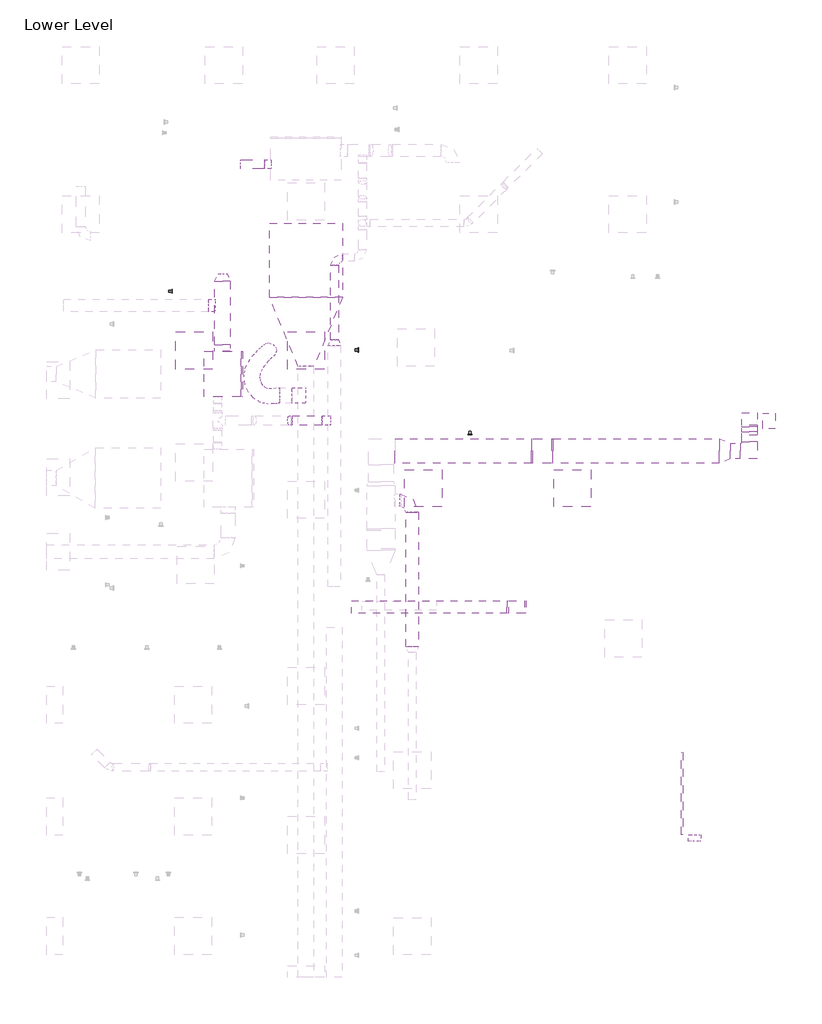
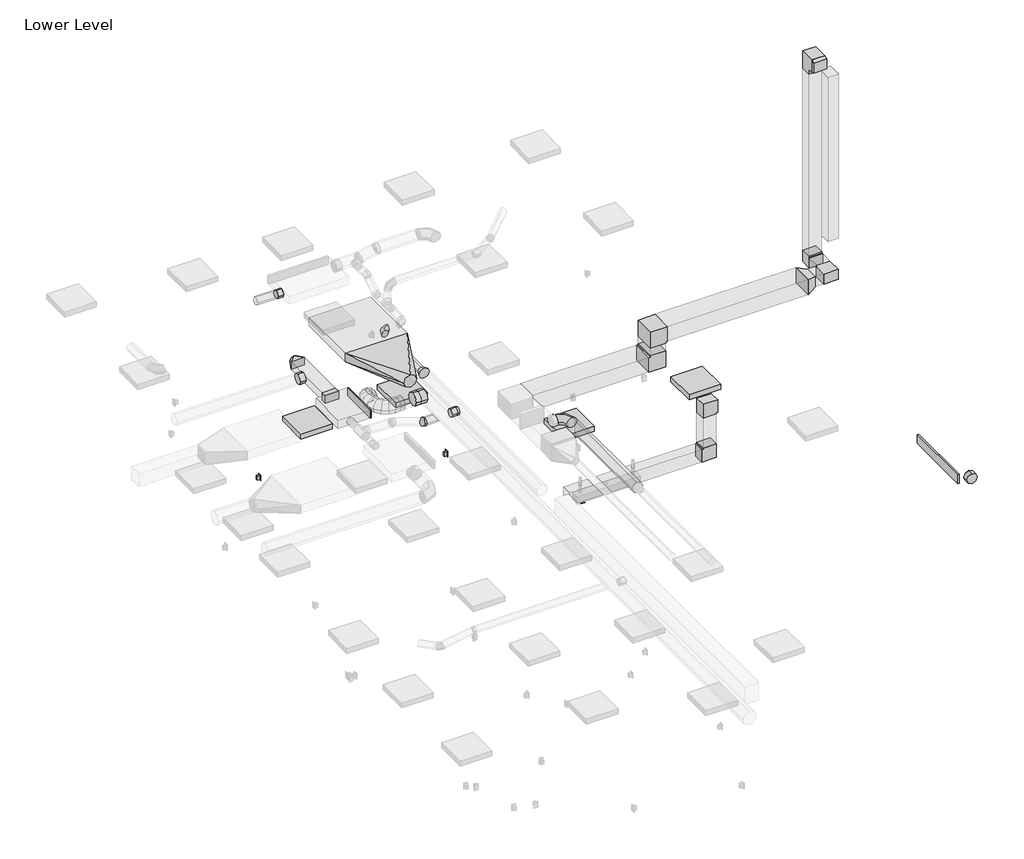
# One storey, part 3 of 4: 23 duct fittings, 17 duct segments, 4 light fixtures, 2 switching devices, 1 proxy.
"""IFC4 building model written with IfcOpenShell, lengths in millimetres."""

from ifc_helpers import new_model, si_unit, point, frame, frame_2d, origin, place, context, project, spatial, polyline, circle_curve, ellipse_curve, trimmed, segment, composite_curve, outline, extrude, transform, mapped, element, save
from ifc_brep_helpers import plane_surface, cylinder_surface, advanced_brep
from components import duplex_receptacle_countertop_10251bba, rectangular_elbow_mitered_transition_standard_34e7224c, rectangular_elbow_mitered_standard_f09b78ec, rectangular_elbow_mitered_standard_c070aa60, rectangular_elbow_mitered_standard_d7b64f5d, rectangular_endcap_standard_43f25f61, rectangular_endcap_standard_3ad2bc23, rectangular_takeoff_standard_c6066038, rectangular_transition_angle_45_degree_591ca4bc, rectangular_transition_angle_45_degree_c4f24900, rectangular_to_round_transition_angle_45_degree_c21d7c10, rectangular_to_round_transition_angle_45_degree_677d3a23, round_elbow_1_d_a253342a, round_elbow_1_d_c80420c1, round_elbow_1_d_f0624a5f, round_takeoff_standard_db554fbb, round_takeoff_standard_d3b0d0f9, round_takeoff_standard_0a2b6d05, round_takeoff_standard_d952ff4d, round_transition_angle_45_degree_a4d0e481, troffer_corner_insert_2x2_3lamp_e67c7f8f

model = new_model("IFC4")

# Units and contexts
model_context = context("Model", 3, world=origin())
ifc_project = project(units=[si_unit("LENGTHUNIT", "METRE", prefix="MILLI")], contexts=[model_context])

# Site, building, storey
site = spatial("IfcSite", under=ifc_project)
building = spatial("IfcBuilding", under=site)
storey = spatial("IfcBuildingStorey", under=building, Name="Lower Level", Elevation=29972.0)

# Proxy
placement = place(None, origin())
duplex_receptacle_countertop_shape = duplex_receptacle_countertop_10251bba(model_context)
element("IfcBuildingElementProxy", 1, Name="Duplex Receptacle : GFCI", ObjectType="Duplex Receptacle : GFCI", at=placement, inside=storey, context=model_context, shape_type="MappedRepresentation", body=[
    mapped(duplex_receptacle_countertop_shape, transform((-10921.2162946, 7255.8695005, 30429.2), x_axis=(1.0, 0.0, 0.0), y_axis=(0.0, 0.0, 1.0), z_axis=(0.0, -1.0, 0.0))),
])

# Duct fittings
rectangular_elbow_mitered_transition_standard_shape = rectangular_elbow_mitered_transition_standard_34e7224c(model_context)
element("IfcDuctFitting", 2, ObjectType="Rectangular Elbow - Mitered - Transition : Standard", at=placement, inside=storey, context=model_context, shape_type="MappedRepresentation", body=[
    mapped(rectangular_elbow_mitered_transition_standard_shape, transform((-6347.3126806, 7505.3293332, 37693.6), x_axis=(0.0, 0.0, 1.0), y_axis=(0.0, -1.0, 0.0), z_axis=(1.0, 0.0, 0.0))),
])
rectangular_elbow_mitered_standard_shape = rectangular_elbow_mitered_standard_f09b78ec(model_context)
element("IfcDuctFitting", 3, ObjectType="Rectangular Elbow - Mitered : Standard", at=placement, inside=storey, context=model_context, shape_type="MappedRepresentation", body=[
    mapped(rectangular_elbow_mitered_standard_shape, transform((-10160.5055151, 4430.1195005, 33807.4), x_axis=(0.0, 0.0, 1.0), y_axis=(1.0, 0.0, 0.0), z_axis=(0.0, 1.0, 0.0))),
])
element("IfcDuctFitting", 4, ObjectType="Rectangular Elbow - Mitered : Standard", at=placement, inside=storey, context=model_context, shape_type="MappedRepresentation", body=[
    mapped(rectangular_elbow_mitered_standard_shape, transform((-6347.3126806, 6984.6293332, 33629.6), x_axis=(1.0, 0.0, 0.0), y_axis=(0.0, 1.0, 0.0), z_axis=(0.0, 0.0, 1.0))),
])
element("IfcDuctFitting", 5, ObjectType="Rectangular Elbow - Mitered : Standard", at=placement, inside=storey, context=model_context, shape_type="MappedRepresentation", body=[
    mapped(rectangular_elbow_mitered_standard_shape, transform((-10160.5055151, 4430.1195005, 32893.0), x_axis=(0.0, 0.0, -1.0), y_axis=(-1.0, 0.0, 0.0), z_axis=(0.0, 1.0, 0.0))),
])
rectangular_elbow_mitered_standard_2_shape = rectangular_elbow_mitered_standard_c070aa60(model_context)
element("IfcDuctFitting", 6, ObjectType="Rectangular Elbow - Mitered : Standard", at=placement, inside=storey, context=model_context, shape_type="MappedRepresentation", body=[
    mapped(rectangular_elbow_mitered_standard_2_shape, transform((-9738.2126806, 6984.6293332, 33121.6), x_axis=(1.0, 0.0, 0.0), y_axis=(0.0, 0.0, 1.0), z_axis=(0.0, -1.0, 0.0))),
])
element("IfcDuctFitting", 7, ObjectType="Rectangular Elbow - Mitered : Standard", at=placement, inside=storey, context=model_context, shape_type="MappedRepresentation", body=[
    mapped(rectangular_elbow_mitered_standard_2_shape, transform((-9738.2126806, 6984.6293332, 33629.6), x_axis=(0.0, 0.0, 1.0), y_axis=(1.0, 0.0, 0.0), z_axis=(0.0, 1.0, 0.0))),
])
rectangular_elbow_mitered_standard_3_shape = rectangular_elbow_mitered_standard_d7b64f5d(model_context)
element("IfcDuctFitting", 8, ObjectType="Rectangular Elbow - Mitered : Standard", at=placement, inside=storey, context=model_context, shape_type="MappedRepresentation", body=[
    mapped(rectangular_elbow_mitered_standard_3_shape, transform((-6347.3126806, 7505.3293332, 33629.6), x_axis=(0.0, 0.0, -1.0), y_axis=(0.0, -1.0, 0.0), z_axis=(-1.0, 0.0, 0.0))),
])
rectangular_endcap_standard_shape = rectangular_endcap_standard_43f25f61(model_context)
element("IfcDuctFitting", 9, ObjectType="Rectangular Endcap : Standard", at=placement, inside=storey, context=model_context, shape_type="MappedRepresentation", body=[
    mapped(rectangular_endcap_standard_shape, transform((-14665.2337034, 8243.4520797, 33121.6), x_axis=(1.0, 0.0, 0.0), y_axis=(0.0, 1.0, 0.0), z_axis=(0.0, 0.0, 1.0))),
])
rectangular_endcap_standard_2_shape = rectangular_endcap_standard_3ad2bc23(model_context)
element("IfcDuctFitting", 10, ObjectType="Rectangular Endcap : Standard", at=placement, inside=storey, context=model_context, shape_type="MappedRepresentation", body=[
    mapped(rectangular_endcap_standard_2_shape, transform((-7438.8450089, 1382.1195005, 33617.69375), x_axis=(-1.0, 0.0, 0.0), y_axis=(0.0, -1.0, 0.0), z_axis=(0.0, 0.0, 1.0))),
])
rectangular_takeoff_standard_shape = rectangular_takeoff_standard_c6066038(model_context)
element("IfcDuctFitting", 11, ObjectType="Rectangular Takeoff : Standard", at=placement, inside=storey, context=model_context, shape_type="MappedRepresentation", body=[
    mapped(rectangular_takeoff_standard_shape, transform((-14970.033703, 8618.7395797, 33121.6), x_axis=(0.0, 1.0, 0.0), y_axis=(1.0, 0.0, 0.0), z_axis=(0.0, 0.0, -1.0))),
])
rectangular_transition_angle_45_degree_shape = rectangular_transition_angle_45_degree_591ca4bc(model_context)
element("IfcDuctFitting", 12, ObjectType="Rectangular Transition - Angle : 45 Degree", at=placement, inside=storey, context=model_context, shape_type="MappedRepresentation", body=[
    mapped(rectangular_transition_angle_45_degree_shape, transform((-6842.6126806, 6984.6293332, 33629.6), x_axis=(1.0, 0.0, 0.0), y_axis=(0.0, 1.0, 0.0), z_axis=(0.0, 0.0, 1.0))),
])
rectangular_transition_angle_45_degree_2_shape = rectangular_transition_angle_45_degree_c4f24900(model_context)
element("IfcDuctFitting", 13, ObjectType="Rectangular Transition - Angle : 45 Degree", at=placement, inside=storey, context=model_context, shape_type="MappedRepresentation", body=[
    mapped(rectangular_transition_angle_45_degree_2_shape, transform((-6347.3126806, 7302.1293332, 37693.6), x_axis=(0.0, -1.0, 0.0), y_axis=(1.0, 0.0, 0.0), z_axis=(0.0, 0.0, 1.0))),
])
rectangular_to_round_transition_angle_45_degree_shape = rectangular_to_round_transition_angle_45_degree_c21d7c10(model_context)
element("IfcDuctFitting", 14, ObjectType="Rectangular to Round Transition - Angle : 45 Degree", at=placement, inside=storey, context=model_context, shape_type="MappedRepresentation", body=[
    mapped(rectangular_to_round_transition_angle_45_degree_shape, transform((-13605.5079607, 9497.2083308, 33125.965625), x_axis=(0.0, -1.0, 0.0), y_axis=(1.0, 0.0, 0.0), z_axis=(0.0, 0.0, 1.0))),
])
rectangular_to_round_transition_angle_45_degree_2_shape = rectangular_to_round_transition_angle_45_degree_677d3a23(model_context)
element("IfcDuctFitting", 15, ObjectType="Rectangular to Round Transition - Angle : 45 Degree", at=placement, inside=storey, context=model_context, shape_type="MappedRepresentation", body=[
    mapped(rectangular_to_round_transition_angle_45_degree_2_shape, transform((-14970.033703, 9761.7395797, 33121.6), x_axis=(0.0, 1.0, 0.0), y_axis=(-1.0, 0.0, 0.0), z_axis=(0.0, 0.0, 1.0))),
])
round_elbow_1_d_shape = round_elbow_1_d_a253342a(model_context)
element("IfcDuctFitting", 16, ObjectType="Round Elbow : 1 D", at=placement, inside=storey, context=model_context, shape_type="MappedRepresentation", body=[
    mapped(round_elbow_1_d_shape, transform((-11866.4513201, 6182.7195005, 33121.6), x_axis=(0.0, 1.0, 0.0), y_axis=(-1.0, 0.0, 0.0), z_axis=(0.0, 0.0, 1.0))),
])
round_elbow_1_d_2_shape = round_elbow_1_d_c80420c1(model_context)
element("IfcDuctFitting", 17, ObjectType="Round Elbow : 1 D", at=placement, inside=storey, context=model_context, shape_type="MappedRepresentation", body=[
    mapped(round_elbow_1_d_2_shape, transform((-13138.544811, 10147.8938374, 32918.4), x_axis=(-1.0, 0.0, 0.0), y_axis=(0.0, -1.0, 0.0), z_axis=(0.0, 0.0, 1.0))),
])
round_elbow_1_d_3_shape = round_elbow_1_d_f0624a5f(model_context)
element("IfcDuctFitting", 18, ObjectType="Round Elbow : 1 D", at=placement, inside=storey, context=model_context, shape_type="MappedRepresentation", body=[
    mapped(round_elbow_1_d_3_shape, transform((-13857.8903997, 7481.5106674, 32918.4), x_axis=(0.9490023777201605, 0.0, -0.31526891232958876), y_axis=(0.31526891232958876, 0.0, 0.9490023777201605), z_axis=(0.0, -1.0, 0.0))),
])
round_takeoff_standard_shape = round_takeoff_standard_db554fbb(model_context)
element("IfcDuctFitting", 19, ObjectType="Round Takeoff : Standard", at=placement, inside=storey, context=model_context, shape_type="MappedRepresentation", body=[
    mapped(round_takeoff_standard_shape, transform((-13240.144811, 7481.5106674, 32918.4), x_axis=(-1.0, 0.0, 0.0), y_axis=(0.0, 1.0, 0.0), z_axis=(0.0, 0.0, -1.0))),
])
round_takeoff_standard_2_shape = round_takeoff_standard_d3b0d0f9(model_context)
element("IfcDuctFitting", 20, ObjectType="Round Takeoff : Standard", at=placement, inside=storey, context=model_context, shape_type="MappedRepresentation", body=[
    mapped(round_takeoff_standard_2_shape, transform((-7247.6134283, 704.2570005, 33617.69375), x_axis=(0.0, -1.0, 0.0), y_axis=(-1.0, 0.0, 0.0), z_axis=(0.0, 0.0, -1.0))),
])
element("IfcDuctFitting", 21, ObjectType="Round Takeoff : Standard", at=placement, inside=storey, context=model_context, shape_type="MappedRepresentation", body=[
    mapped(round_takeoff_standard_2_shape, transform((-15097.033703, 9360.8945005, 33121.6), x_axis=(-1.0, 0.0, 0.0), y_axis=(0.0, 1.0, 0.0), z_axis=(0.0, 0.0, -1.0))),
])
round_takeoff_standard_3_shape = round_takeoff_standard_0a2b6d05(model_context)
element("IfcDuctFitting", 22, ObjectType="Round Takeoff : Standard", at=placement, inside=storey, context=model_context, shape_type="MappedRepresentation", body=[
    mapped(round_takeoff_standard_3_shape, transform((-14180.8079607, 11673.8820005, 33121.6), x_axis=(-1.0, 0.0, 0.0), y_axis=(0.0, 1.0, 0.0), z_axis=(0.0, 0.0, -1.0))),
])
round_takeoff_standard_4_shape = round_takeoff_standard_d952ff4d(model_context)
element("IfcDuctFitting", 23, ObjectType="Round Takeoff : Standard", at=placement, inside=storey, context=model_context, shape_type="MappedRepresentation", body=[
    mapped(round_takeoff_standard_4_shape, transform((-13732.5079603, 7890.6991771, 33125.8664063), x_axis=(-1.0, 0.0, 0.0), y_axis=(0.0, 1.0, 0.0), z_axis=(0.0, 0.0, -1.0))),
])
round_transition_angle_45_degree_shape = round_transition_angle_45_degree_a4d0e481(model_context)
element("IfcDuctFitting", 24, ObjectType="Round Transition - Angle : 45 Degree", at=placement, inside=storey, context=model_context, shape_type="MappedRepresentation", body=[
    mapped(round_transition_angle_45_degree_shape, transform((-13138.544811, 8801.6938374, 32918.4), x_axis=(0.0, -1.0, 0.0), y_axis=(1.0, 0.0, 0.0), z_axis=(0.0, 0.0, 1.0))),
])

# Duct segments
element("IfcDuctSegment", 25, ObjectType="Flex - Round", at=placement, inside=storey, context=model_context, shape_type="AdvancedBrep", body=[
    advanced_brep(
    [(-14037.3079605, 7763.6991771, 33125.8664063), (-14037.3079605, 7890.6991771, 32998.8664063), (-14037.3079605, 8017.6991771, 33125.8664063), (-14037.3079605, 7890.6991771, 33252.8664063), (-14040.9920083, 7763.6991771, 33125.8664063), (-14045.0423151, 7890.6991771, 32998.8664063), (-14050.0146519, 8017.6991771, 33125.8664063), (-14045.9643451, 7890.6991771, 33252.8664063), (-14321.2846893, 8695.563435, 32769.175), (-14145.4265263, 8732.0587291, 32769.175), (-14108.9312321, 8556.2005661, 32769.175), (-14284.7893951, 8519.7052719, 32769.175), (-14119.58986, 7758.1081083, 33125.2950512), (-14126.5972662, 7884.8977546, 32998.2735551), (-14135.1998695, 8011.6395151, 33125.2471654), (-14128.1924633, 7884.8498688, 33252.2686616), (-14225.5060669, 7752.5984317, 33124.7320137), (-14218.0674383, 7880.1395492, 32997.7873109), (-14208.9395831, 8007.803634, 33124.8551742), (-14216.3782117, 7880.2625165, 33251.799877), (-14349.2226435, 7775.3196166, 33127.0502738), (-14306.7437824, 7896.4254154, 32999.4489704), (-14255.7287503, 8016.3967049, 33125.7319318), (-14298.2076115, 7895.2909061, 33253.3332352), (-14462.7192682, 7846.2863307, 33133.252861), (-14384.307358, 7944.9240568, 33003.6878175), (-14294.1283697, 8040.4070649, 33127.8304699), (-14372.5402799, 7941.7693389, 33257.3955134), (-14547.8206041, 7947.8223241, 33138.4069089), (-14443.8431141, 8015.9572793, 33007.2935205), (-14330.9025979, 8084.2830834, 33130.0576516), (-14434.880088, 8016.1481282, 33261.17104), (-14602.6772442, 8069.2170113, 33138.0158328), (-14481.2164139, 8098.6623089, 33007.0270841), (-14356.2082048, 8140.2829811, 33129.8772464), (-14477.6690352, 8110.8376835, 33260.8659951), (-14621.3719284, 8202.6166104, 33127.1461156), (-14493.0254609, 8182.9280887, 33000.1609076), (-14364.2698133, 8197.8081757, 33125.1899565), (-14492.6162808, 8217.4966974, 33252.1751645), (-14598.480399, 8330.6774108, 33102.2923605), (-14478.7118444, 8263.0019522, 32984.6203504), (-14353.5761466, 8257.6311563, 33113.5796456), (-14473.3447013, 8325.3066149, 33231.2516557), (-14548.4441978, 8440.3669796, 33065.8906429), (-14444.5039259, 8337.9926934, 32959.7338292), (-14323.1698818, 8324.2878967, 33091.4588563), (-14427.1101536, 8426.6621829, 33197.6156701), (-14486.5511669, 8530.9053424, 33019.9282394), (-14398.9643943, 8404.6088306, 32925.915703), (-14276.7252307, 8392.2280608, 33056.968579), (-14364.3120032, 8518.5245726, 33150.9811154), (-14423.7636394, 8602.7999632, 32965.1804845), (-14352.0530385, 8458.3245011, 32885.011219), (-14222.2419806, 8454.6139001, 33009.4617613), (-14293.9525816, 8599.0893622, 33089.6310268), (-14370.0613539, 8654.7547782, 32903.1223169), (-14314.1877161, 8494.9576872, 32841.254189), (-14168.702514, 8506.4111943, 32947.5917468), (-14224.5761518, 8666.2082853, 33009.4598747), (-14333.5480554, 8685.9686114, 32835.2414671), (-14290.0874716, 8515.5600717, 32796.4500998), (-14126.965206, 8542.0908351, 32869.9990872), (-14170.4257899, 8712.4993749, 32908.7904545), (-14321.2846893, 8695.563435, 32790.7822465), (-14284.7893951, 8519.7052719, 32777.2426207), (-14108.9312321, 8556.2005661, 32804.6192872), (-14145.4265263, 8732.0587291, 32818.158913)],
    [
        (0, 1, circle_curve(frame((-14037.3079605, 7890.6991771, 33125.8664063), z_axis=(1.0, 0.0, 0.0), x_axis=(0.0, -1.0, 0.0)), 127.0)),
        (1, 2, circle_curve(frame((-14037.3079605, 7890.6991771, 33125.8664063), z_axis=(1.0, 0.0, 0.0), x_axis=(0.0, -1.0, 0.0)), 127.0)),
        (2, 3, circle_curve(frame((-14037.3079605, 7890.6991771, 33125.8664063), z_axis=(1.0, 0.0, 0.0), x_axis=(0.0, -1.0, 0.0)), 127.0)),
        (3, 0, circle_curve(frame((-14037.3079605, 7890.6991771, 33125.8664063), z_axis=(1.0, 0.0, 0.0), x_axis=(0.0, -1.0, 0.0)), 127.0)),
        (0, 4),
        (4, 5, ellipse_curve(frame((-14045.5033301, 7890.6991771, 33125.8664063), z_axis=(0.9993631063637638, 0.03549959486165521, 0.0036277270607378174), x_axis=(0.03568447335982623, -0.9941854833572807, -0.10159647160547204)), 127.080937, 127.0)),
        (5, 1),
        (5, 6, ellipse_curve(frame((-14045.5033301, 7890.6991771, 33125.8664063), z_axis=(0.9993631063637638, 0.03549959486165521, 0.0036277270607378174), x_axis=(0.03568447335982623, -0.9941854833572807, -0.10159647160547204)), 127.080937, 127.0)),
        (6, 2),
        (6, 7, ellipse_curve(frame((-14045.5033301, 7890.6991771, 33125.8664063), z_axis=(0.9993631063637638, 0.03549959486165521, 0.0036277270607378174), x_axis=(0.03568447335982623, -0.9941854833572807, -0.10159647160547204)), 127.080937, 127.0)),
        (7, 3),
        (7, 4, ellipse_curve(frame((-14045.5033301, 7890.6991771, 33125.8664063), z_axis=(0.9993631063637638, 0.03549959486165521, 0.0036277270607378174), x_axis=(0.03568447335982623, -0.9941854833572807, -0.10159647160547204)), 127.080937, 127.0)),
        (8, 9, circle_curve(frame((-14215.1079607, 8625.8820005, 32769.175), z_axis=(0.0, 0.0, -1.0), x_axis=(-0.8360372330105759, 0.5486727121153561, 0.0)), 127.0)),
        (9, 10, circle_curve(frame((-14215.1079607, 8625.8820005, 32769.175), z_axis=(0.0, 0.0, -1.0), x_axis=(-0.8360372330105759, 0.5486727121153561, 0.0)), 127.0)),
        (10, 11, circle_curve(frame((-14215.1079607, 8625.8820005, 32769.175), z_axis=(0.0, 0.0, -1.0), x_axis=(-0.8360372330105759, 0.5486727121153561, 0.0)), 127.0)),
        (11, 8, circle_curve(frame((-14215.1079607, 8625.8820005, 32769.175), z_axis=(0.0, 0.0, -1.0), x_axis=(-0.8360372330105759, 0.5486727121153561, 0.0)), 127.0)),
        (4, 12),
        (12, 13, ellipse_curve(frame((-14127.3948648, 7884.8738117, 33125.2711083), z_axis=(0.9980901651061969, 0.06145391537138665, 0.0062800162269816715), x_axis=(-0.06177396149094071, 0.9929191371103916, 0.10146706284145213)), 127.0058168, 127.0)),
        (13, 5),
        (13, 14, ellipse_curve(frame((-14127.3948648, 7884.8738117, 33125.2711083), z_axis=(0.9980901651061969, 0.06145391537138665, 0.0062800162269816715), x_axis=(-0.06177396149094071, 0.9929191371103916, 0.10146706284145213)), 127.0058168, 127.0)),
        (14, 6),
        (14, 15, ellipse_curve(frame((-14127.3948648, 7884.8738117, 33125.2711083), z_axis=(0.9980901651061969, 0.06145391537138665, 0.0062800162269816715), x_axis=(-0.06177396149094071, 0.9929191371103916, 0.10146706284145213)), 127.0058168, 127.0)),
        (15, 7),
        (15, 12, ellipse_curve(frame((-14127.3948648, 7884.8738117, 33125.2711083), z_axis=(0.9980901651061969, 0.06145391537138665, 0.0062800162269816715), x_axis=(-0.06177396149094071, 0.9929191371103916, 0.10146706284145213)), 127.0058168, 127.0)),
        (12, 16),
        (16, 17, ellipse_curve(frame((-14217.222825, 7880.2010329, 33124.793594), z_axis=(0.9978781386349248, -0.06477343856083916, -0.0066047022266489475), x_axis=(0.06510929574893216, 0.9927206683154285, 0.10132351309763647)), 127.8802283, 127.0)),
        (17, 13),
        (17, 18, ellipse_curve(frame((-14217.222825, 7880.2010329, 33124.793594), z_axis=(0.9978781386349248, -0.06477343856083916, -0.0066047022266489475), x_axis=(0.06510929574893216, 0.9927206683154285, 0.10132351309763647)), 127.8802283, 127.0)),
        (18, 14),
        (18, 19, ellipse_curve(frame((-14217.222825, 7880.2010329, 33124.793594), z_axis=(0.9978781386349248, -0.06477343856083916, -0.0066047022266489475), x_axis=(0.06510929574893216, 0.9927206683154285, 0.10132351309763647)), 127.8802283, 127.0)),
        (19, 15),
        (19, 16, ellipse_curve(frame((-14217.222825, 7880.2010329, 33124.793594), z_axis=(0.9978781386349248, -0.06477343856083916, -0.0066047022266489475), x_axis=(0.06510929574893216, 0.9927206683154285, 0.10132351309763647)), 127.8802283, 127.0)),
        (16, 20),
        (20, 21, ellipse_curve(frame((-14302.4756969, 7895.8581608, 33126.3911028), z_axis=(0.9317749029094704, -0.36153868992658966, -0.03294398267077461), x_axis=(0.3630167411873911, 0.9288276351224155, 0.0741489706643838)), 129.3023413, 127.0)),
        (21, 17),
        (21, 22, ellipse_curve(frame((-14302.4756969, 7895.8581608, 33126.3911028), z_axis=(0.9317749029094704, -0.36153868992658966, -0.03294398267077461), x_axis=(0.3630167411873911, 0.9288276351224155, 0.0741489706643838)), 129.3023413, 127.0)),
        (22, 18),
        (22, 23, ellipse_curve(frame((-14302.4756969, 7895.8581608, 33126.3911028), z_axis=(0.9317749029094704, -0.36153868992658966, -0.03294398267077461), x_axis=(0.3630167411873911, 0.9288276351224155, 0.0741489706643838)), 129.3023413, 127.0)),
        (23, 19),
        (23, 20, ellipse_curve(frame((-14302.4756969, 7895.8581608, 33126.3911028), z_axis=(0.9317749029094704, -0.36153868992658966, -0.03294398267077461), x_axis=(0.3630167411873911, 0.9288276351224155, 0.0741489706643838)), 129.3023413, 127.0)),
        (20, 24),
        (24, 25, ellipse_curve(frame((-14378.423819, 7943.3466978, 33130.5416655), z_axis=(0.7537108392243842, -0.655790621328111, -0.04311185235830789), x_axis=(0.6554451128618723, 0.7548711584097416, -0.02369046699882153)), 128.5837899, 127.0)),
        (25, 21),
        (25, 26, ellipse_curve(frame((-14378.423819, 7943.3466978, 33130.5416655), z_axis=(0.7537108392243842, -0.655790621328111, -0.04311185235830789), x_axis=(0.6554451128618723, 0.7548711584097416, -0.02369046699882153)), 128.5837899, 127.0)),
        (26, 22),
        (26, 27, ellipse_curve(frame((-14378.423819, 7943.3466978, 33130.5416655), z_axis=(0.7537108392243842, -0.655790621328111, -0.04311185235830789), x_axis=(0.6554451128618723, 0.7548711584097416, -0.02369046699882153)), 128.5837899, 127.0)),
        (27, 23),
        (27, 24, ellipse_curve(frame((-14378.423819, 7943.3466978, 33130.5416655), z_axis=(0.7537108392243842, -0.655790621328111, -0.04311185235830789), x_axis=(0.6554451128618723, 0.7548711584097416, -0.02369046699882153)), 128.5837899, 127.0)),
        (24, 28),
        (28, 29, ellipse_curve(frame((-14439.361601, 8016.0527037, 33134.2322802), z_axis=(0.5318975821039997, -0.846614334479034, -0.01814196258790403), x_axis=(0.8354693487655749, 0.5281489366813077, -0.1518211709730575)), 128.2213297, 127.0)),
        (29, 25),
        (29, 30, ellipse_curve(frame((-14439.361601, 8016.0527037, 33134.2322802), z_axis=(0.5318975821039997, -0.846614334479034, -0.01814196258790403), x_axis=(0.8354693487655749, 0.5281489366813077, -0.1518211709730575)), 128.2213297, 127.0)),
        (30, 26),
        (30, 31, ellipse_curve(frame((-14439.361601, 8016.0527037, 33134.2322802), z_axis=(0.5318975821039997, -0.846614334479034, -0.01814196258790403), x_axis=(0.8354693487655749, 0.5281489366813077, -0.1518211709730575)), 128.2213297, 127.0)),
        (31, 27),
        (31, 28, ellipse_curve(frame((-14439.361601, 8016.0527037, 33134.2322802), z_axis=(0.5318975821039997, -0.846614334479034, -0.01814196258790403), x_axis=(0.8354693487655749, 0.5281489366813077, -0.1518211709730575)), 128.2213297, 127.0)),
        (28, 32),
        (32, 33, ellipse_curve(frame((-14479.4427245, 8104.7499962, 33133.9465396), z_axis=(0.2780879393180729, -0.9596307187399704, 0.04214239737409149), x_axis=(0.9295867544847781, 0.2578125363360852, -0.2634410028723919)), 128.3964684, 127.0)),
        (33, 29),
        (33, 34, ellipse_curve(frame((-14479.4427245, 8104.7499962, 33133.9465396), z_axis=(0.2780879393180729, -0.9596307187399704, 0.04214239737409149), x_axis=(0.9295867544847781, 0.2578125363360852, -0.2634410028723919)), 128.3964684, 127.0)),
        (34, 30),
        (34, 35, ellipse_curve(frame((-14479.4427245, 8104.7499962, 33133.9465396), z_axis=(0.2780879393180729, -0.9596307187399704, 0.04214239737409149), x_axis=(0.9295867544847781, 0.2578125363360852, -0.2634410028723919)), 128.3964684, 127.0)),
        (35, 31),
        (35, 32, ellipse_curve(frame((-14479.4427245, 8104.7499962, 33133.9465396), z_axis=(0.2780879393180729, -0.9596307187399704, 0.04214239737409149), x_axis=(0.9295867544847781, 0.2578125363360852, -0.2634410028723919)), 128.3964684, 127.0)),
        (32, 36),
        (36, 37, ellipse_curve(frame((-14492.8208709, 8200.212393, 33126.1680361), z_axis=(-0.017491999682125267, -0.9905676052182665, 0.1359038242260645), x_axis=(0.9436698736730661, -0.061275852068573, -0.32516524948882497)), 128.7621713, 127.0)),
        (37, 33),
        (37, 38, ellipse_curve(frame((-14492.8208709, 8200.212393, 33126.1680361), z_axis=(-0.017491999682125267, -0.9905676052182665, 0.1359038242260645), x_axis=(0.9436698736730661, -0.061275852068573, -0.32516524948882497)), 128.7621713, 127.0)),
        (38, 34),
        (38, 39, ellipse_curve(frame((-14492.8208709, 8200.212393, 33126.1680361), z_axis=(-0.017491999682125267, -0.9905676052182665, 0.1359038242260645), x_axis=(0.9436698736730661, -0.061275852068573, -0.32516524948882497)), 128.7621713, 127.0)),
        (39, 35),
        (39, 36, ellipse_curve(frame((-14492.8208709, 8200.212393, 33126.1680361), z_axis=(-0.017491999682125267, -0.9905676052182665, 0.1359038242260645), x_axis=(0.9436698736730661, -0.061275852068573, -0.32516524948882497)), 128.7621713, 127.0)),
        (36, 40),
        (40, 41, ellipse_curve(frame((-14476.0282728, 8294.1542836, 33107.936003), z_axis=(-0.2875960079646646, -0.9270750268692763, 0.24045879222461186), x_axis=(0.8492076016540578, -0.3629290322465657, -0.38357393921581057)), 128.1238941, 127.0)),
        (41, 37),
        (41, 42, ellipse_curve(frame((-14476.0282728, 8294.1542836, 33107.936003), z_axis=(-0.2875960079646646, -0.9270750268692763, 0.24045879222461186), x_axis=(0.8492076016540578, -0.3629290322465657, -0.38357393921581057)), 128.1238941, 127.0)),
        (42, 38),
        (42, 43, ellipse_curve(frame((-14476.0282728, 8294.1542836, 33107.936003), z_axis=(-0.2875960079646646, -0.9270750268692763, 0.24045879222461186), x_axis=(0.8492076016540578, -0.3629290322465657, -0.38357393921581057)), 128.1238941, 127.0)),
        (43, 39),
        (43, 40, ellipse_curve(frame((-14476.0282728, 8294.1542836, 33107.936003), z_axis=(-0.2875960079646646, -0.9270750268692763, 0.24045879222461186), x_axis=(0.8492076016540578, -0.3629290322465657, -0.38357393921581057)), 128.1238941, 127.0)),
        (40, 44),
        (44, 45, ellipse_curve(frame((-14435.8070398, 8382.3274382, 33078.6747496), z_axis=(-0.4610156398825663, -0.8199465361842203, 0.3393409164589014), x_axis=(0.643111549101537, -0.5722056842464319, -0.5089088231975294)), 127.5864377, 127.0)),
        (45, 41),
        (45, 46, ellipse_curve(frame((-14435.8070398, 8382.3274382, 33078.6747496), z_axis=(-0.4610156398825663, -0.8199465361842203, 0.3393409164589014), x_axis=(0.643111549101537, -0.5722056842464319, -0.5089088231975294)), 127.5864377, 127.0)),
        (46, 42),
        (46, 47, ellipse_curve(frame((-14435.8070398, 8382.3274382, 33078.6747496), z_axis=(-0.4610156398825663, -0.8199465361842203, 0.3393409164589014), x_axis=(0.643111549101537, -0.5722056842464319, -0.5089088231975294)), 127.5864377, 127.0)),
        (47, 43),
        (47, 44, ellipse_curve(frame((-14435.8070398, 8382.3274382, 33078.6747496), z_axis=(-0.4610156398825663, -0.8199465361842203, 0.3393409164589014), x_axis=(0.643111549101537, -0.5722056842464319, -0.5089088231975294)), 127.5864377, 127.0)),
        (44, 48),
        (48, 49, ellipse_curve(frame((-14381.6381988, 8461.5667016, 33038.4484092), z_axis=(-0.547358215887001, -0.7097243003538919, 0.4434979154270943), x_axis=(0.30780649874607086, -0.663509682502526, -0.6819164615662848)), 127.4228424, 127.0)),
        (49, 45),
        (49, 50, ellipse_curve(frame((-14381.6381988, 8461.5667016, 33038.4484092), z_axis=(-0.547358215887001, -0.7097243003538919, 0.4434979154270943), x_axis=(0.30780649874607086, -0.663509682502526, -0.6819164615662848)), 127.4228424, 127.0)),
        (50, 46),
        (50, 51, ellipse_curve(frame((-14381.6381988, 8461.5667016, 33038.4484092), z_axis=(-0.547358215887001, -0.7097243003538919, 0.4434979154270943), x_axis=(0.30780649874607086, -0.663509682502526, -0.6819164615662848)), 127.4228424, 127.0)),
        (51, 47),
        (51, 48, ellipse_curve(frame((-14381.6381988, 8461.5667016, 33038.4484092), z_axis=(-0.547358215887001, -0.7097243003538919, 0.4434979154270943), x_axis=(0.30780649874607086, -0.663509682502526, -0.6819164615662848)), 127.4228424, 127.0)),
        (48, 52),
        (52, 53, ellipse_curve(frame((-14323.00281, 8528.7069316, 32987.3211229), z_axis=(-0.5641673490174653, -0.5966933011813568, 0.5706770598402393), x_axis=(-0.09558938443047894, -0.6393261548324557, -0.7629709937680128)), 127.548613, 127.0)),
        (53, 49),
        (53, 54, ellipse_curve(frame((-14323.00281, 8528.7069316, 32987.3211229), z_axis=(-0.5641673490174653, -0.5966933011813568, 0.5706770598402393), x_axis=(-0.09558938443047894, -0.6393261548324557, -0.7629709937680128)), 127.548613, 127.0)),
        (54, 50),
        (54, 55, ellipse_curve(frame((-14323.00281, 8528.7069316, 32987.3211229), z_axis=(-0.5641673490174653, -0.5966933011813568, 0.5706770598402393), x_axis=(-0.09558938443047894, -0.6393261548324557, -0.7629709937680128)), 127.548613, 127.0)),
        (55, 51),
        (55, 52, ellipse_curve(frame((-14323.00281, 8528.7069316, 32987.3211229), z_axis=(-0.5641673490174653, -0.5966933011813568, 0.5706770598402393), x_axis=(-0.09558938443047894, -0.6393261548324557, -0.7629709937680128)), 127.548613, 127.0)),
        (52, 56),
        (56, 57, ellipse_curve(frame((-14269.3819339, 8580.5829863, 32925.3570319), z_axis=(-0.500371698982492, -0.4591510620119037, 0.7340357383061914), x_axis=(-0.4305526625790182, -0.603587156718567, -0.6710491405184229)), 128.1238502, 127.0)),
        (57, 53),
        (57, 58, ellipse_curve(frame((-14269.3819339, 8580.5829863, 32925.3570319), z_axis=(-0.500371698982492, -0.4591510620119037, 0.7340357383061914), x_axis=(-0.4305526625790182, -0.603587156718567, -0.6710491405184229)), 128.1238502, 127.0)),
        (58, 54),
        (58, 59, ellipse_curve(frame((-14269.3819339, 8580.5829863, 32925.3570319), z_axis=(-0.500371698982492, -0.4591510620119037, 0.7340357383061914), x_axis=(-0.4305526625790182, -0.603587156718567, -0.6710491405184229)), 128.1238502, 127.0)),
        (59, 55),
        (59, 56, ellipse_curve(frame((-14269.3819339, 8580.5829863, 32925.3570319), z_axis=(-0.500371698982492, -0.4591510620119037, 0.7340357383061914), x_axis=(-0.4305526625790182, -0.603587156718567, -0.6710491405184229)), 128.1238502, 127.0)),
        (56, 60),
        (60, 61, ellipse_curve(frame((-14230.2566307, 8614.0297233, 32852.6202772), z_axis=(-0.353151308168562, -0.2923703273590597, 0.888709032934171), x_axis=(-0.6413411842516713, -0.6159431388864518, -0.4574882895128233)), 128.251455, 127.0)),
        (61, 57),
        (61, 62, ellipse_curve(frame((-14230.2566307, 8614.0297233, 32852.6202772), z_axis=(-0.353151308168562, -0.2923703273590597, 0.888709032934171), x_axis=(-0.6413411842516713, -0.6159431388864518, -0.4574882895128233)), 128.251455, 127.0)),
        (62, 58),
        (62, 63, ellipse_curve(frame((-14230.2566307, 8614.0297233, 32852.6202772), z_axis=(-0.353151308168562, -0.2923703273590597, 0.888709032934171), x_axis=(-0.6413411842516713, -0.6159431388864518, -0.4574882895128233)), 128.251455, 127.0)),
        (63, 59),
        (63, 60, ellipse_curve(frame((-14230.2566307, 8614.0297233, 32852.6202772), z_axis=(-0.353151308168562, -0.2923703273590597, 0.888709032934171), x_axis=(-0.6413411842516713, -0.6159431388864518, -0.4574882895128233)), 128.251455, 127.0)),
        (60, 64),
        (64, 65, ellipse_curve(frame((-14215.1079607, 8625.8820005, 32797.7007668), z_axis=(-0.13203347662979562, -0.1033026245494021, 0.9858477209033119), x_axis=(-0.776439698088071, -0.6074842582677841, -0.1676432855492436)), 128.823141, 127.0)),
        (65, 61),
        (65, 66, ellipse_curve(frame((-14215.1079607, 8625.8820005, 32797.7007668), z_axis=(-0.13203347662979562, -0.1033026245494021, 0.9858477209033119), x_axis=(-0.776439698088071, -0.6074842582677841, -0.1676432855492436)), 128.823141, 127.0)),
        (66, 62),
        (66, 67, ellipse_curve(frame((-14215.1079607, 8625.8820005, 32797.7007668), z_axis=(-0.13203347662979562, -0.1033026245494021, 0.9858477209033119), x_axis=(-0.776439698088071, -0.6074842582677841, -0.1676432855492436)), 128.823141, 127.0)),
        (67, 63),
        (67, 64, ellipse_curve(frame((-14215.1079607, 8625.8820005, 32797.7007668), z_axis=(-0.13203347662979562, -0.1033026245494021, 0.9858477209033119), x_axis=(-0.776439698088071, -0.6074842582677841, -0.1676432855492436)), 128.823141, 127.0)),
        (64, 8),
        (11, 65),
        (10, 66),
        (9, 67),
    ],
    [
        plane_surface(frame((-14037.3079605, 7890.6991771, 32998.8664063), z_axis=(1.0, 0.0, 0.0), x_axis=(0.0, -1.0, 0.0))),
        cylinder_surface(frame((-14037.3079605, 7890.6991771, 33125.8664063), z_axis=(1.0, 0.0, 0.0), x_axis=(0.0, -1.0, 0.0)), 127.0),
        plane_surface(frame((-14215.1079607, 8498.8820005, 32769.175), z_axis=(0.0, 0.0, -1.0), x_axis=(-1.0, 0.0, 0.0))),
        cylinder_surface(frame((-14045.5033301, 7890.6991771, 33125.8664063), z_axis=(0.9974532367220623, 0.0709539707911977, 0.007250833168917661), x_axis=(0.0709539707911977, -0.9974795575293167, 0.00025756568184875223)), 127.0),
        cylinder_surface(frame((-14127.3948648, 7884.8738117, 33125.2711083), z_axis=(0.9986356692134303, 0.05194823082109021, 0.005308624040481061), x_axis=(0.05194823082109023, -0.9986497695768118, 0.00013798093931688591)), 127.0),
        cylinder_surface(frame((-14217.222825, 7880.2010329, 33124.793594), z_axis=(0.983383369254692, -0.18060340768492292, -0.018427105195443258), x_axis=(-0.18060342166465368, -0.9835545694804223, 0.0016771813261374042)), 127.0),
        cylinder_surface(frame((-14302.4756969, 7895.8581608, 33126.3911028), z_axis=(0.8469843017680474, -0.5295989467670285, -0.04628766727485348), x_axis=(-0.5295643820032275, -0.8481539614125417, 0.01401510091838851)), 127.0),
        cylinder_surface(frame((-14378.423819, 7943.3466978, 33130.5416655), z_axis=(0.6418701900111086, -0.7658273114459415, -0.03887400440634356), x_axis=(-0.7654288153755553, -0.6429324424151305, 0.02750641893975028)), 127.0),
        cylinder_surface(frame((-14439.361601, 8016.0527037, 33134.2322802), z_axis=(0.41179214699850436, -0.9112730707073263, 0.002935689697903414), x_axis=(-0.9108358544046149, -0.4114899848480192, 0.0324659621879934)), 127.0),
        cylinder_surface(frame((-14479.4427245, 8104.7499962, 33133.9465396), z_axis=(0.1383346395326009, -0.9871140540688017, 0.0804324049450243), x_axis=(-0.990343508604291, -0.13712358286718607, 0.020417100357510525)), 127.0),
        cylinder_surface(frame((-14492.8208709, 8200.212393, 33126.1680361), z_axis=(-0.1728398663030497, -0.9669083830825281, 0.18765542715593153), x_axis=(-0.9848885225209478, 0.17179092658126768, -0.021965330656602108)), 127.0),
        cylinder_surface(frame((-14476.0282728, 8294.1542836, 33107.936003), z_axis=(-0.39730660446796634, -0.8709771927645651, 0.28904358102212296), x_axis=(-0.916610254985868, 0.3918881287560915, -0.07905273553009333)), 127.0),
        cylinder_surface(frame((-14435.8070398, 8382.3274382, 33078.6747496), z_axis=(-0.5204866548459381, -0.7613782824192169, 0.3865187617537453), x_axis=(-0.8479940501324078, 0.5139265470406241, -0.12955923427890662)), 127.0),
        cylinder_surface(frame((-14381.6381988, 8461.5667016, 33038.4484092), z_axis=(-0.5705970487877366, -0.6533599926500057, 0.497533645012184), x_axis=(-0.8020694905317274, 0.5734739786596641, -0.1667696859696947)), 127.0),
        cylinder_surface(frame((-14323.00281, 8528.7069316, 32987.3211229), z_axis=(-0.5528844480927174, -0.5348936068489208, 0.6389112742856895), x_axis=(-0.7849845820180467, 0.5915438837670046, -0.18405173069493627)), 127.0),
        cylinder_surface(frame((-14269.3819339, 8580.5829863, 32925.3570319), z_axis=(-0.43908083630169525, -0.37535354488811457, 0.8162828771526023), x_axis=(-0.7989194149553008, 0.5787570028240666, -0.16360959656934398)), 127.0),
        cylinder_surface(frame((-14230.2566307, 8614.0297233, 32852.6202772), z_axis=(-0.2603298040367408, -0.20368131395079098, 0.9437914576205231), x_axis=(-0.8218553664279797, 0.5597685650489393, -0.1058910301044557)), 127.0),
        cylinder_surface(frame((-14215.1079607, 8625.8820005, 32797.7007668), z_axis=(0.0, 0.0, 1.0000000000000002), x_axis=(-0.8360372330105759, 0.5486727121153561, 0.0)), 127.0),
    ],
    [
        (0, [[1, 2, 3, 4]]),
        (1, [[-1, 5, 6, 7]]),
        (1, [[-2, -7, 8, 9]]),
        (1, [[-3, -9, 10, 11]]),
        (1, [[-4, -11, 12, -5]]),
        (2, [[13, 14, 15, 16]]),
        (3, [[-6, 17, 18, 19]]),
        (3, [[-8, -19, 20, 21]]),
        (3, [[-10, -21, 22, 23]]),
        (3, [[-12, -23, 24, -17]]),
        (4, [[-18, 25, 26, 27]]),
        (4, [[-20, -27, 28, 29]]),
        (4, [[-22, -29, 30, 31]]),
        (4, [[-24, -31, 32, -25]]),
        (5, [[-26, 33, 34, 35]]),
        (5, [[-28, -35, 36, 37]]),
        (5, [[-30, -37, 38, 39]]),
        (5, [[-32, -39, 40, -33]]),
        (6, [[-34, 41, 42, 43]]),
        (6, [[-36, -43, 44, 45]]),
        (6, [[-38, -45, 46, 47]]),
        (6, [[-40, -47, 48, -41]]),
        (7, [[-42, 49, 50, 51]]),
        (7, [[-44, -51, 52, 53]]),
        (7, [[-46, -53, 54, 55]]),
        (7, [[-48, -55, 56, -49]]),
        (8, [[-50, 57, 58, 59]]),
        (8, [[-52, -59, 60, 61]]),
        (8, [[-54, -61, 62, 63]]),
        (8, [[-56, -63, 64, -57]]),
        (9, [[-58, 65, 66, 67]]),
        (9, [[-60, -67, 68, 69]]),
        (9, [[-62, -69, 70, 71]]),
        (9, [[-64, -71, 72, -65]]),
        (10, [[-66, 73, 74, 75]]),
        (10, [[-68, -75, 76, 77]]),
        (10, [[-70, -77, 78, 79]]),
        (10, [[-72, -79, 80, -73]]),
        (11, [[-74, 81, 82, 83]]),
        (11, [[-76, -83, 84, 85]]),
        (11, [[-78, -85, 86, 87]]),
        (11, [[-80, -87, 88, -81]]),
        (12, [[-82, 89, 90, 91]]),
        (12, [[-84, -91, 92, 93]]),
        (12, [[-86, -93, 94, 95]]),
        (12, [[-88, -95, 96, -89]]),
        (13, [[-90, 97, 98, 99]]),
        (13, [[-92, -99, 100, 101]]),
        (13, [[-94, -101, 102, 103]]),
        (13, [[-96, -103, 104, -97]]),
        (14, [[-98, 105, 106, 107]]),
        (14, [[-100, -107, 108, 109]]),
        (14, [[-102, -109, 110, 111]]),
        (14, [[-104, -111, 112, -105]]),
        (15, [[-106, 113, 114, 115]]),
        (15, [[-108, -115, 116, 117]]),
        (15, [[-110, -117, 118, 119]]),
        (15, [[-112, -119, 120, -113]]),
        (16, [[-114, 121, 122, 123]]),
        (16, [[-116, -123, 124, 125]]),
        (16, [[-118, -125, 126, 127]]),
        (16, [[-120, -127, 128, -121]]),
        (17, [[-122, 129, -16, 130]]),
        (17, [[-124, -130, -15, 131]]),
        (17, [[-126, -131, -14, 132]]),
        (17, [[-128, -132, -13, -129]]),
    ],
),
])
element("IfcDuctSegment", 26, ObjectType="Mitered Elbows / Taps", at=placement, inside=storey, context=model_context, shape_type="SweptSolid", body=[
    extrude(outline(polyline([(-14843.033703, 8720.3395797), (-15097.033703, 8720.3395797), (-15097.033703, 9761.7395797), (-14843.033703, 9761.7395797), (-14843.033703, 8720.3395797)])), frame((0.0, 0.0, 33045.4), z_axis=(0.0, 0.0, 1.0), x_axis=(1.0, 0.0, 0.0)), (0.0, 0.0, 1.0), 152.4),
])
element("IfcDuctSegment", 27, ObjectType="Mitered Elbows / Taps", at=placement, inside=storey, context=model_context, shape_type="SweptSolid", body=[
    extrude(outline(polyline([(-14665.2337034, 8618.7395797), (-14665.2337034, 7868.1645797), (-15274.8337025, 7868.1645797), (-15274.8337025, 8618.7395797), (-14665.2337034, 8618.7395797)])), frame((0.0, 0.0, 33041.6792969), z_axis=(0.0, 0.0, 1.0), x_axis=(1.0, 0.0, 0.0)), (0.0, 0.0, 1.0), 159.8414062),
])
element("IfcDuctSegment", 28, ObjectType="Mitered Elbows / Taps", at=placement, inside=storey, context=model_context, shape_type="SweptSolid", body=[
    extrude(outline(polyline([(-13010.2079607, 9497.2083308), (-14200.8079607, 9497.2083308), (-14200.8079607, 10705.4194302), (-13010.2079607, 10705.4194302), (-13010.2079607, 9497.2083308)])), frame((0.0, 0.0, 33041.465625), z_axis=(0.0, 0.0, 1.0), x_axis=(1.0, 0.0, 0.0)), (0.0, 0.0, 1.0), 169.0),
])
element("IfcDuctSegment", 29, ObjectType="Mitered Elbows / Taps", at=placement, inside=storey, context=model_context, shape_type="SweptSolid", body=[
    extrude(outline(polyline([(-12151.2126806, 6781.4293332), (-12151.2126806, 7187.8293332), (-9916.0126806, 7187.8293332), (-9916.0126806, 6781.4293332), (-12151.2126806, 6781.4293332)])), frame((0.0, 0.0, 32969.2), z_axis=(0.0, 0.0, 1.0), x_axis=(1.0, 0.0, 0.0)), (0.0, 0.0, 1.0), 304.8),
])
element("IfcDuctSegment", 30, ObjectType="Mitered Elbows / Taps", at=placement, inside=storey, context=model_context, shape_type="SweptSolid", body=[
    extrude(outline(polyline([(-10312.9055151, 4531.7195005), (-10312.9055151, 4328.5195005), (-12859.144811, 4328.5195005), (-12859.144811, 4531.7195005), (-10312.9055151, 4531.7195005)])), frame((0.0, 0.0, 32766.0), z_axis=(0.0, 0.0, 1.0), x_axis=(1.0, 0.0, 0.0)), (0.0, 0.0, 1.0), 254.0),
])
element("IfcDuctSegment", 31, ObjectType="Mitered Elbows / Taps", at=placement, inside=storey, context=model_context, shape_type="SweptSolid", body=[
    extrude(outline(polyline([(-10033.5055151, 4531.7195005), (-10033.5055151, 4328.5195005), (-10287.5055151, 4328.5195005), (-10287.5055151, 4531.7195005), (-10033.5055151, 4531.7195005)])), frame((0.0, 0.0, 33045.4), z_axis=(0.0, 0.0, 1.0), x_axis=(1.0, 0.0, 0.0)), (0.0, 0.0, 1.0), 609.6),
])
element("IfcDuctSegment", 32, ObjectType="Mitered Elbows / Taps", at=placement, inside=storey, context=model_context, shape_type="SweptSolid", body=[
    extrude(outline(polyline([(-9585.8126806, 7187.8293332), (-9585.8126806, 6781.4293332), (-9890.6126806, 6781.4293332), (-9890.6126806, 7187.8293332), (-9585.8126806, 7187.8293332)])), frame((0.0, 0.0, 33299.4), z_axis=(0.0, 0.0, 1.0), x_axis=(1.0, 0.0, 0.0)), (0.0, 0.0, 1.0), 152.4),
])
element("IfcDuctSegment", 33, ObjectType="Mitered Elbows / Taps", at=placement, inside=storey, context=model_context, shape_type="SweptSolid", body=[
    extrude(outline(polyline([(-9560.4126806, 6781.4293332), (-9560.4126806, 7187.8293332), (-6842.6126806, 7187.8293332), (-6842.6126806, 6781.4293332), (-9560.4126806, 6781.4293332)])), frame((0.0, 0.0, 33477.2), z_axis=(0.0, 0.0, 1.0), x_axis=(1.0, 0.0, 0.0)), (0.0, 0.0, 1.0), 304.8),
])
element("IfcDuctSegment", 34, ObjectType="Mitered Elbows / Taps", at=placement, inside=storey, context=model_context, shape_type="SweptSolid", body=[
    extrude(outline(polyline([(-6131.4204015, 7605.1195005), (-5928.2204015, 7605.1195005), (-5928.2204015, 7351.1195005), (-6131.4204015, 7351.1195005), (-6131.4204015, 7605.1195005)])), frame((0.0, 0.0, 33959.8), z_axis=(0.0, 0.0, 1.0), x_axis=(1.0, 0.0, 0.0)), (0.0, 0.0, 1.0), 3352.8),
])
element("IfcDuctSegment", 35, ObjectType="Mitered Elbows / Taps", at=placement, inside=storey, context=model_context, shape_type="SweptSolid", body=[
    extrude(outline(polyline([(-6658.6496071, 6857.6293332), (-6658.6496071, 7111.6293332), (-6499.7126806, 7111.6293332), (-6499.7126806, 6857.6293332), (-6658.6496071, 6857.6293332)])), frame((0.0, 0.0, 33528.0), z_axis=(0.0, 0.0, 1.0), x_axis=(1.0, 0.0, 0.0)), (0.0, 0.0, 1.0), 203.2),
])
element("IfcDuctSegment", 36, ObjectType="Mitered Elbows / Taps", at=placement, inside=storey, context=model_context, shape_type="SweptSolid", body=[
    extrude(outline(polyline([(-6474.3126806, 7403.7293332), (-6474.3126806, 7606.9293332), (-6220.3126806, 7606.9293332), (-6220.3126806, 7403.7293332), (-6474.3126806, 7403.7293332)])), frame((0.0, 0.0, 33756.6), z_axis=(0.0, 0.0, 1.0), x_axis=(1.0, 0.0, 0.0)), (0.0, 0.0, 1.0), 3708.4),
])
element("IfcDuctSegment", 37, ObjectType="Mitered Elbows / Taps", at=placement, inside=storey, context=model_context, shape_type="SweptSolid", body=[
    extrude(outline(polyline([(-6220.3126806, 7137.0293332), (-6474.3126806, 7137.0293332), (-6474.3126806, 7378.3293332), (-6220.3126806, 7378.3293332), (-6220.3126806, 7137.0293332)])), frame((0.0, 0.0, 33528.0), z_axis=(0.0, 0.0, 1.0), x_axis=(1.0, 0.0, 0.0)), (0.0, 0.0, 1.0), 203.2),
])
element("IfcDuctSegment", 38, ObjectType="Taps / Short Radius", at=placement, inside=storey, context=model_context, shape_type="SweptSolid", body=[
    extrude(outline(composite_curve([segment(trimmed(circle_curve(frame_2d((32918.4, -13138.544811)), 63.5), [point((32918.4, -13202.044811))], [point((32854.9, -13138.544811))], False, "CARTESIAN"), True, "CONTINUOUS"), segment(trimmed(circle_curve(frame_2d((32918.4, -13138.544811)), 63.5), [point((32854.9, -13138.544811))], [point((32918.4, -13075.044811))], False, "CARTESIAN"), True, "CONTINUOUS"), segment(trimmed(circle_curve(frame_2d((32918.4, -13138.544811)), 63.5), [point((32918.4, -13075.044811))], [point((32981.9, -13138.544811))], False, "CARTESIAN"), True, "CONTINUOUS"), segment(trimmed(circle_curve(frame_2d((32918.4, -13138.544811)), 63.5), [point((32981.9, -13138.544811))], [point((32918.4, -13202.044811))], False, "CARTESIAN"), True, "CONTINUOUS")], self_intersect=False)), frame((0.0, 8801.6938374, 0.0), z_axis=(0.0, 1.0, 0.0), x_axis=(0.0, 0.0, 1.0)), (0.0, 0.0, 1.0), 1219.2),
])
element("IfcDuctSegment", 39, ObjectType="Taps / Short Radius", at=placement, inside=storey, context=model_context, shape_type="SweptSolid", body=[
    extrude(outline(composite_curve([segment(trimmed(circle_curve(frame_2d((11673.8820005, 33121.6)), 76.2), [point((11750.0820005, 33121.6))], [point((11673.8820005, 33045.4))], False, "CARTESIAN"), True, "CONTINUOUS"), segment(trimmed(circle_curve(frame_2d((11673.8820005, 33121.6)), 76.2), [point((11673.8820005, 33045.4))], [point((11597.6820005, 33121.6))], False, "CARTESIAN"), True, "CONTINUOUS"), segment(trimmed(circle_curve(frame_2d((11673.8820005, 33121.6)), 76.2), [point((11597.6820005, 33121.6))], [point((11673.8820005, 33197.8))], False, "CARTESIAN"), True, "CONTINUOUS"), segment(trimmed(circle_curve(frame_2d((11673.8820005, 33121.6)), 76.2), [point((11673.8820005, 33197.8))], [point((11750.0820005, 33121.6))], False, "CARTESIAN"), True, "CONTINUOUS")], self_intersect=False)), frame((-14672.3079607, 0.0, 0.0), z_axis=(1.0, 0.0, 0.0), x_axis=(0.0, 1.0, 0.0)), (0.0, 0.0, 1.0), 389.9),
])
element("IfcDuctSegment", 40, ObjectType="Taps / Short Radius", at=placement, inside=storey, context=model_context, shape_type="SweptSolid", body=[
    extrude(outline(composite_curve([segment(trimmed(circle_curve(frame_2d((7481.5106674, 32918.4)), 76.2), [point((7405.3106674, 32918.4))], [point((7481.5106674, 32994.6))], False, "CARTESIAN"), True, "CONTINUOUS"), segment(trimmed(circle_curve(frame_2d((7481.5106674, 32918.4)), 76.2), [point((7481.5106674, 32994.6))], [point((7557.7106674, 32918.4))], False, "CARTESIAN"), True, "CONTINUOUS"), segment(trimmed(circle_curve(frame_2d((7481.5106674, 32918.4)), 76.2), [point((7557.7106674, 32918.4))], [point((7481.5106674, 32842.2))], False, "CARTESIAN"), True, "CONTINUOUS"), segment(trimmed(circle_curve(frame_2d((7481.5106674, 32918.4)), 76.2), [point((7481.5106674, 32842.2))], [point((7405.3106674, 32918.4))], False, "CARTESIAN"), True, "CONTINUOUS")], self_intersect=False)), frame((-13833.2383096, 0.0, 0.0), z_axis=(1.0, 0.0, 0.0), x_axis=(0.0, 1.0, 0.0)), (0.0, 0.0, 1.0), 491.4934986),
])
element("IfcDuctSegment", 41, ObjectType="Taps / Short Radius", at=placement, inside=storey, context=model_context, shape_type="SweptSolid", body=[
    extrude(outline(composite_curve([segment(trimmed(circle_curve(frame_2d((33121.6, -11866.4513201)), 101.6), [point((33121.6, -11968.0513201))], [point((33020.0, -11866.4513201))], False, "CARTESIAN"), True, "CONTINUOUS"), segment(trimmed(circle_curve(frame_2d((33121.6, -11866.4513201)), 101.6), [point((33020.0, -11866.4513201))], [point((33121.6, -11764.8513201))], False, "CARTESIAN"), True, "CONTINUOUS"), segment(trimmed(circle_curve(frame_2d((33121.6, -11866.4513201)), 101.6), [point((33121.6, -11764.8513201))], [point((33223.2, -11866.4513201))], False, "CARTESIAN"), True, "CONTINUOUS"), segment(trimmed(circle_curve(frame_2d((33121.6, -11866.4513201)), 101.6), [point((33223.2, -11866.4513201))], [point((33121.6, -11968.0513201))], False, "CARTESIAN"), True, "CONTINUOUS")], self_intersect=False)), frame((0.0, 3785.5010372, 0.0), z_axis=(0.0, 1.0, 0.0), x_axis=(0.0, 0.0, 1.0)), (0.0, 0.0, 1.0), 2194.0184633),
])

# Light fixtures
troffer_corner_insert_2x2_3lamp_shape = troffer_corner_insert_2x2_3lamp_e67c7f8f(model_context)
element("IfcLightFixture", 42, ObjectType="Troffer Corner Insert : 2x2 3Lamp", at=placement, inside=storey, context=model_context, shape_type="MappedRepresentation", body=[
    mapped(troffer_corner_insert_2x2_3lamp_shape, transform((-11684.6329607, 6373.2195005, 30276.8), x_axis=(1.0, 0.0, 0.0), y_axis=(0.0, 1.0, 0.0), z_axis=(0.0, 0.0, 1.0))),
])
element("IfcLightFixture", 43, ObjectType="Troffer Corner Insert : 2x2 3Lamp", at=placement, inside=storey, context=model_context, shape_type="MappedRepresentation", body=[
    mapped(troffer_corner_insert_2x2_3lamp_shape, transform((-9246.2329607, 6373.2195005, 30276.8), x_axis=(1.0, 0.0, 0.0), y_axis=(0.0, 1.0, 0.0), z_axis=(0.0, 0.0, 1.0))),
])
element("IfcLightFixture", 44, ObjectType="Troffer Corner Insert : 2x2 3Lamp", at=placement, inside=storey, context=model_context, shape_type="MappedRepresentation", body=[
    mapped(troffer_corner_insert_2x2_3lamp_shape, transform((-13605.5079607, 8625.8820005, 30276.8), x_axis=(1.0, 0.0, 0.0), y_axis=(0.0, 1.0, 0.0), z_axis=(0.0, 0.0, 1.0))),
])
element("IfcLightFixture", 45, ObjectType="Troffer Corner Insert : 2x2 3Lamp", at=placement, inside=storey, context=model_context, shape_type="MappedRepresentation", body=[
    mapped(troffer_corner_insert_2x2_3lamp_shape, transform((-15434.3079607, 8625.8820005, 30276.8), x_axis=(1.0, 0.0, 0.0), y_axis=(0.0, 1.0, 0.0), z_axis=(0.0, 0.0, 1.0))),
])

# Switching devices
element("IfcSwitchingDevice", 46, ObjectType="Lighting Switches : Single Pole", at=placement, inside=storey, context=model_context, shape_type="MappedRepresentation", body=[
    mapped(duplex_receptacle_countertop_shape, transform((-12749.8454607, 8634.7735671, 31191.2), x_axis=(0.0, 1.0, 0.0), y_axis=(0.0, 0.0, 1.0), z_axis=(1.0, 0.0, 0.0))),
])
element("IfcSwitchingDevice", 47, ObjectType="Lighting Switches : Three Way", at=placement, inside=storey, context=model_context, shape_type="MappedRepresentation", body=[
    mapped(duplex_receptacle_countertop_shape, transform((-15797.8454607, 9596.9090528, 31191.2), x_axis=(0.0, 1.0, 0.0), y_axis=(0.0, 0.0, 1.0), z_axis=(1.0, 0.0, 0.0))),
])

save(model, "model.ifc")
